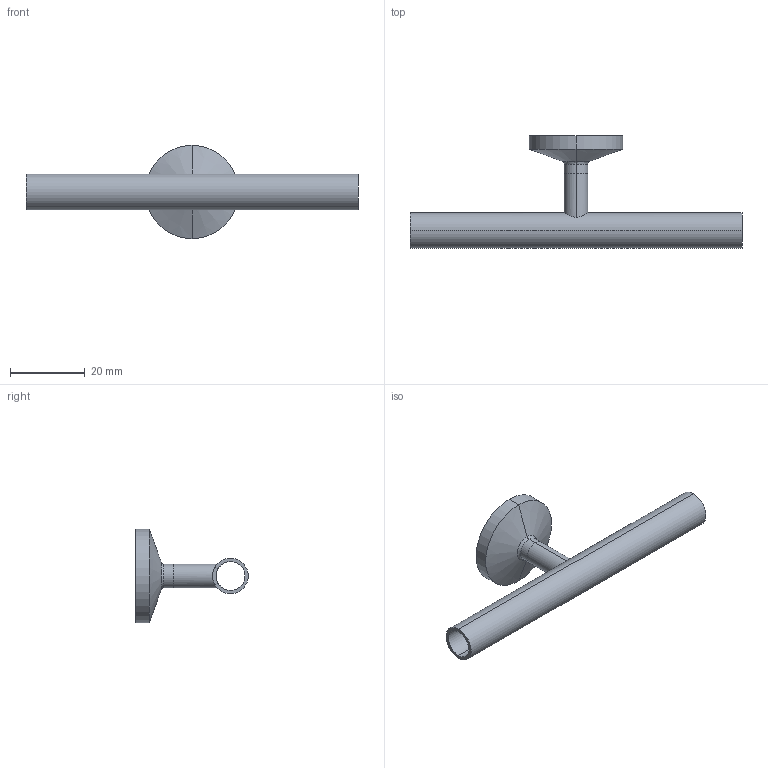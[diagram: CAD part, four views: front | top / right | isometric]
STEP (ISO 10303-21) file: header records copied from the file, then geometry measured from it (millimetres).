
FILE_DESCRIPTION (( 'STEP AP214' ), '1' );
FILE_NAME ('TE7RWWCS6L.375x.25-...STEP', '2016-05-23T10:48:08', ( 'eran' ), ( '' ), 'SwSTEP 2.0', 'SolidWorks 2016', '' );
FILE_SCHEMA (( 'AUTOMOTIVE_DESIGN' ));
Length unit declared in the file: millimetre
Products named in the file (1): TE7RWWCS6L.375x.25-..
Bounding box: 89 x 30.16 x 24.99 mm (x, y, z)
Volume: 4338.5 mm3; surface area: 6837.6 mm2
Topology: 2 solids, 2 shells, 34 faces, 70 edges, 42 vertices
Faces by surface type: cylinder 16, bspline 8, plane 6, cone 4
Entity records: 1159 total; most frequent: CARTESIAN_POINT 399, DIRECTION 158, ORIENTED_EDGE 140, EDGE_CURVE 70, AXIS2_PLACEMENT_3D 69, CIRCLE 42, EDGE_LOOP 42, VERTEX_POINT 42
